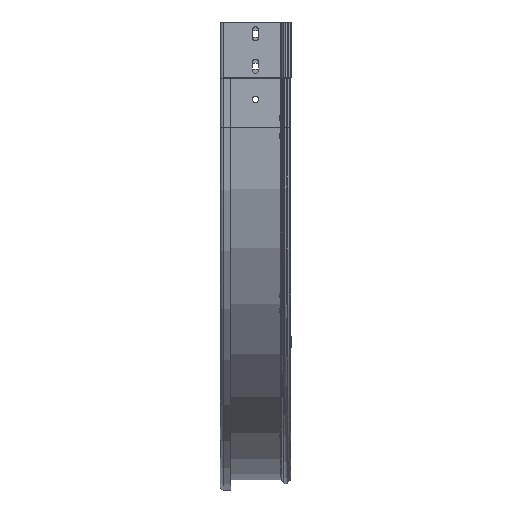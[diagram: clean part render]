
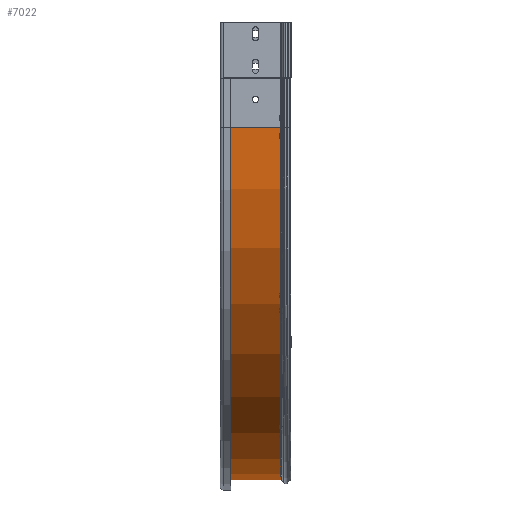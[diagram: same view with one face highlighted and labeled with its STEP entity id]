
A CAD part, left-side view. The second image highlights one B-rep face of the part: STEP entity #7022.
In plain terms, the highlighted cylindrical face has radius 501.5 mm (diameter 1003 mm), a partial arc.
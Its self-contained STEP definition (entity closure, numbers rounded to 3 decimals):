
#95 = CYLINDRICAL_SURFACE ( 'NONE', #10303, 501.5 ) ;
#562 = VERTEX_POINT ( 'NONE', #1087 ) ;
#844 = CIRCLE ( 'NONE', #8242, 501.5 ) ;
#880 = VECTOR ( 'NONE', #11102, 1000. ) ;
#1087 = CARTESIAN_POINT ( 'NONE',  ( 500., 96., -651.5 ) ) ;
#1870 = DIRECTION ( 'NONE',  ( 0., 1., 0. ) ) ;
#2268 = DIRECTION ( 'NONE',  ( 0., 1., 0. ) ) ;
#2501 = CARTESIAN_POINT ( 'NONE',  ( 500., 14.067, -150. ) ) ;
#2554 = FACE_OUTER_BOUND ( 'NONE', #5063, .T. ) ;
#2777 = CARTESIAN_POINT ( 'NONE',  ( 500., 0., -150. ) ) ;
#2900 = VERTEX_POINT ( 'NONE', #9994 ) ;
#3352 = ORIENTED_EDGE ( 'NONE', *, *, #7880, .F. ) ;
#3716 = EDGE_CURVE ( 'NONE', #6512, #562, #9748, .T. ) ;
#4653 = ORIENTED_EDGE ( 'NONE', *, *, #6917, .T. ) ;
#4748 = ORIENTED_EDGE ( 'NONE', *, *, #3716, .F. ) ;
#4918 = DIRECTION ( 'NONE',  ( 0., 0., 1. ) ) ;
#5063 = EDGE_LOOP ( 'NONE', ( #10203, #4748, #4653, #3352 ) ) ;
#5404 = DIRECTION ( 'NONE',  ( 0., 0., 1. ) ) ;
#5551 = VERTEX_POINT ( 'NONE', #10938 ) ;
#6087 = DIRECTION ( 'NONE',  ( 0., 0., 1. ) ) ;
#6282 = CARTESIAN_POINT ( 'NONE',  ( 500., 96., -150. ) ) ;
#6512 = VERTEX_POINT ( 'NONE', #10278 ) ;
#6917 = EDGE_CURVE ( 'NONE', #6512, #2900, #844, .T. ) ;
#7022 = ADVANCED_FACE ( 'NONE', ( #2554 ), #95, .T. ) ;
#7496 = EDGE_CURVE ( 'NONE', #562, #5551, #8656, .T. ) ;
#7735 = CARTESIAN_POINT ( 'NONE',  ( -1.5, 14.067, -150. ) ) ;
#7880 = EDGE_CURVE ( 'NONE', #5551, #2900, #10237, .T. ) ;
#8015 = VECTOR ( 'NONE', #9809, 1000. ) ;
#8242 = AXIS2_PLACEMENT_3D ( 'NONE', #2501, #2268, #4918 ) ;
#8656 = CIRCLE ( 'NONE', #11053, 501.5 ) ;
#8705 = DIRECTION ( 'NONE',  ( 0., 1., 0. ) ) ;
#9748 = LINE ( 'NONE', #10779, #8015 ) ;
#9809 = DIRECTION ( 'NONE',  ( 0., 1., 0. ) ) ;
#9994 = CARTESIAN_POINT ( 'NONE',  ( -1.5, 14.067, -150. ) ) ;
#10203 = ORIENTED_EDGE ( 'NONE', *, *, #7496, .F. ) ;
#10237 = LINE ( 'NONE', #7735, #880 ) ;
#10278 = CARTESIAN_POINT ( 'NONE',  ( 500., 14.067, -651.5 ) ) ;
#10303 = AXIS2_PLACEMENT_3D ( 'NONE', #2777, #8705, #6087 ) ;
#10779 = CARTESIAN_POINT ( 'NONE',  ( 500., 14.067, -651.5 ) ) ;
#10938 = CARTESIAN_POINT ( 'NONE',  ( -1.5, 96., -150. ) ) ;
#11053 = AXIS2_PLACEMENT_3D ( 'NONE', #6282, #1870, #5404 ) ;
#11102 = DIRECTION ( 'NONE',  ( 0., -1., 0. ) ) ;
